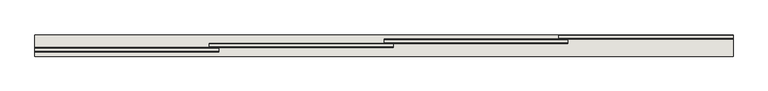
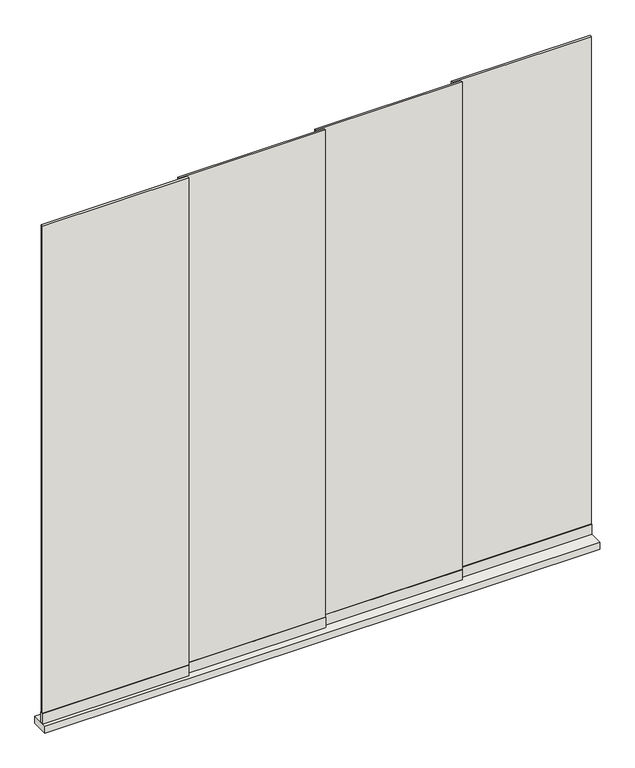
"""IFC4 building model written with IfcOpenShell, lengths in millimetres: wall geometry, Renson_Amani_Glass_Sliding_Panel : Renson_Amani_Glass_Sliding_Panel."""

from ifc_helpers import new_model, si_unit, frame, origin, origin_with_axes, place, context, project, spatial, polyline, outline, extrude, source, transform, mapped, element, save


def wall_5a5b3840(model_context):
    return source(origin(), model_context, "Body", "SweptSolid", [
        extrude(outline(polyline([(-1165.0, -48.0), (-1165.0, -64.0), (-1850.0, -64.0), (-1850.0, -48.0), (-1165.0, -48.0)])), frame((0.0, 0.0, 35.0), z_axis=(0.0, 0.0, 1.0), x_axis=(1.0, 0.0, 0.0)), (0.0, 0.0, 1.0), 51.0),
        extrude(outline(polyline([(750.0, 0.0), (750.0, -80.0), (-1850.0, -80.0), (-1850.0, 0.0), (750.0, 0.0)])), origin_with_axes(), (0.0, 0.0, 1.0), 35.0),
        extrude(outline(polyline([(750.0, -3.0), (750.0, -13.0), (100.0, -13.0), (100.0, -3.0), (750.0, -3.0)])), frame((0.0, 0.0, 86.0), z_axis=(0.0, 0.0, 1.0), x_axis=(1.0, 0.0, 0.0)), (0.0, 0.0, 1.0), 2414.0),
        extrude(outline(polyline([(135.0, -19.0), (135.0, -29.0), (-550.0, -29.0), (-550.0, -19.0), (135.0, -19.0)])), frame((0.0, 0.0, 86.0), z_axis=(0.0, 0.0, 1.0), x_axis=(1.0, 0.0, 0.0)), (0.0, 0.0, 1.0), 2414.0),
        extrude(outline(polyline([(-1165.0, -51.0), (-1165.0, -61.0), (-1850.0, -61.0), (-1850.0, -51.0), (-1165.0, -51.0)])), frame((0.0, 0.0, 86.0), z_axis=(0.0, 0.0, 1.0), x_axis=(1.0, 0.0, 0.0)), (0.0, 0.0, 1.0), 2414.0),
        extrude(outline(polyline([(-515.0, -35.0), (-515.0, -45.0), (-1200.0, -45.0), (-1200.0, -35.0), (-515.0, -35.0)])), frame((0.0, 0.0, 86.0), z_axis=(0.0, 0.0, 1.0), x_axis=(1.0, 0.0, 0.0)), (0.0, 0.0, 1.0), 2414.0),
        extrude(outline(polyline([(750.0, 0.0), (750.0, -16.0), (100.0, -16.0), (100.0, 0.0), (750.0, 0.0)])), frame((0.0, 0.0, 35.0), z_axis=(0.0, 0.0, 1.0), x_axis=(1.0, 0.0, 0.0)), (0.0, 0.0, 1.0), 51.0),
        extrude(outline(polyline([(135.0, -16.0), (135.0, -32.0), (-550.0, -32.0), (-550.0, -16.0), (135.0, -16.0)])), frame((0.0, 0.0, 35.0), z_axis=(0.0, 0.0, 1.0), x_axis=(1.0, 0.0, 0.0)), (0.0, 0.0, 1.0), 51.0),
        extrude(outline(polyline([(-515.0, -32.0), (-515.0, -48.0), (-1200.0, -48.0), (-1200.0, -32.0), (-515.0, -32.0)])), frame((0.0, 0.0, 35.0), z_axis=(0.0, 0.0, 1.0), x_axis=(1.0, 0.0, 0.0)), (0.0, 0.0, 1.0), 51.0),
    ])


if __name__ == "__main__":
    model = new_model("IFC4")
    model_context = context("Model", 3, world=origin())
    ifc_project = project(units=[si_unit("LENGTHUNIT", "METRE", prefix="MILLI")], contexts=[model_context])
    site = spatial("IfcSite", under=ifc_project)
    building = spatial("IfcBuilding", under=site)
    placement = place(None, origin())
    wall_shape = wall_5a5b3840(model_context)
    element("IfcWall", 1, ObjectType="Renson_Amani_Glass_Sliding_Panel : Renson_Amani_Glass_Sliding_Panel", at=placement, inside=building, context=model_context, shape_type="MappedRepresentation", body=[
        mapped(wall_shape, transform((0.0, 0.0, 0.0), x_axis=(1.0, 0.0, 0.0), y_axis=(0.0, 1.0, 0.0), z_axis=(0.0, 0.0, 1.0))),
    ])
    save(model, "model.ifc")
